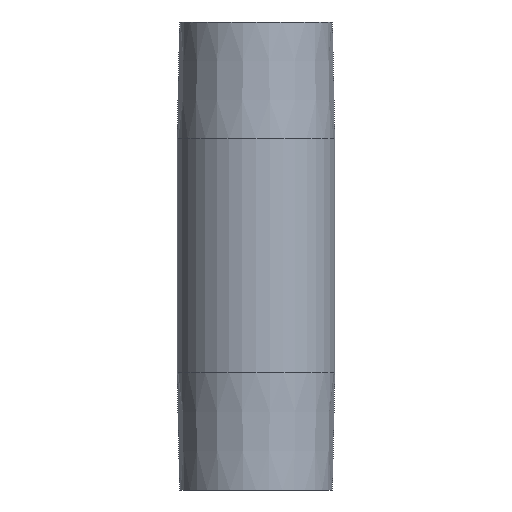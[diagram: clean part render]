
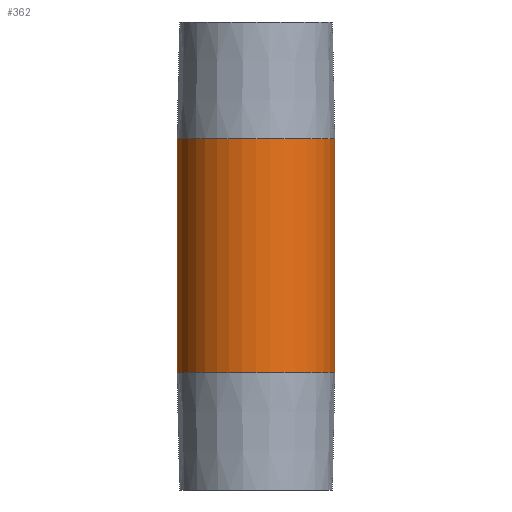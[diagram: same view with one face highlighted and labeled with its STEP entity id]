
A CAD part, front view. The second image highlights one B-rep face of the part: STEP entity #362.
In plain terms, the highlighted cylindrical face has radius 16 mm (diameter 32 mm), a partial arc.
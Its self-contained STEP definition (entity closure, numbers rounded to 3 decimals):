
#2 = DIRECTION ( 'NONE',  ( 0., 0., -1. ) ) ;
#16 = EDGE_CURVE ( 'NONE', #164, #354, #154, .T. ) ;
#63 = CARTESIAN_POINT ( 'NONE',  ( 0., 0., 47.5 ) ) ;
#66 = CARTESIAN_POINT ( 'NONE',  ( 0., 0., 23.75 ) ) ;
#91 = CYLINDRICAL_SURFACE ( 'NONE', #196, 16. ) ;
#114 = CIRCLE ( 'NONE', #263, 16. ) ;
#116 = DIRECTION ( 'NONE',  ( 0., 0., 1. ) ) ;
#128 = CARTESIAN_POINT ( 'NONE',  ( -16., 0., 23.75 ) ) ;
#133 = EDGE_CURVE ( 'NONE', #470, #354, #183, .T. ) ;
#153 = ORIENTED_EDGE ( 'NONE', *, *, #238, .T. ) ;
#154 = LINE ( 'NONE', #368, #379 ) ;
#164 = VERTEX_POINT ( 'NONE', #421 ) ;
#183 = CIRCLE ( 'NONE', #460, 16. ) ;
#196 = AXIS2_PLACEMENT_3D ( 'NONE', #63, #2, #203 ) ;
#203 = DIRECTION ( 'NONE',  ( -1., 0., 0. ) ) ;
#237 = ORIENTED_EDGE ( 'NONE', *, *, #325, .F. ) ;
#238 = EDGE_CURVE ( 'NONE', #364, #470, #391, .T. ) ;
#240 = DIRECTION ( 'NONE',  ( 0., 0., 1. ) ) ;
#250 = EDGE_LOOP ( 'NONE', ( #333, #237, #153, #337 ) ) ;
#263 = AXIS2_PLACEMENT_3D ( 'NONE', #66, #240, #275 ) ;
#275 = DIRECTION ( 'NONE',  ( 1., 0., 0. ) ) ;
#279 = FACE_OUTER_BOUND ( 'NONE', #250, .T. ) ;
#284 = VECTOR ( 'NONE', #344, 1000. ) ;
#305 = CARTESIAN_POINT ( 'NONE',  ( -16., 0., 47.5 ) ) ;
#325 = EDGE_CURVE ( 'NONE', #364, #164, #114, .T. ) ;
#329 = CARTESIAN_POINT ( 'NONE',  ( -16., 0., -23.75 ) ) ;
#333 = ORIENTED_EDGE ( 'NONE', *, *, #16, .F. ) ;
#337 = ORIENTED_EDGE ( 'NONE', *, *, #133, .T. ) ;
#338 = CARTESIAN_POINT ( 'NONE',  ( 0., 0., -23.75 ) ) ;
#344 = DIRECTION ( 'NONE',  ( 0., 0., -1. ) ) ;
#354 = VERTEX_POINT ( 'NONE', #433 ) ;
#362 = ADVANCED_FACE ( 'NONE', ( #279 ), #91, .T. ) ;
#364 = VERTEX_POINT ( 'NONE', #128 ) ;
#368 = CARTESIAN_POINT ( 'NONE',  ( 16., 0., 47.5 ) ) ;
#373 = DIRECTION ( 'NONE',  ( 0., 0., -1. ) ) ;
#379 = VECTOR ( 'NONE', #373, 1000. ) ;
#391 = LINE ( 'NONE', #305, #284 ) ;
#421 = CARTESIAN_POINT ( 'NONE',  ( 16., 0., 23.75 ) ) ;
#433 = CARTESIAN_POINT ( 'NONE',  ( 16., 0., -23.75 ) ) ;
#459 = DIRECTION ( 'NONE',  ( 1., 0., 0. ) ) ;
#460 = AXIS2_PLACEMENT_3D ( 'NONE', #338, #116, #459 ) ;
#470 = VERTEX_POINT ( 'NONE', #329 ) ;
